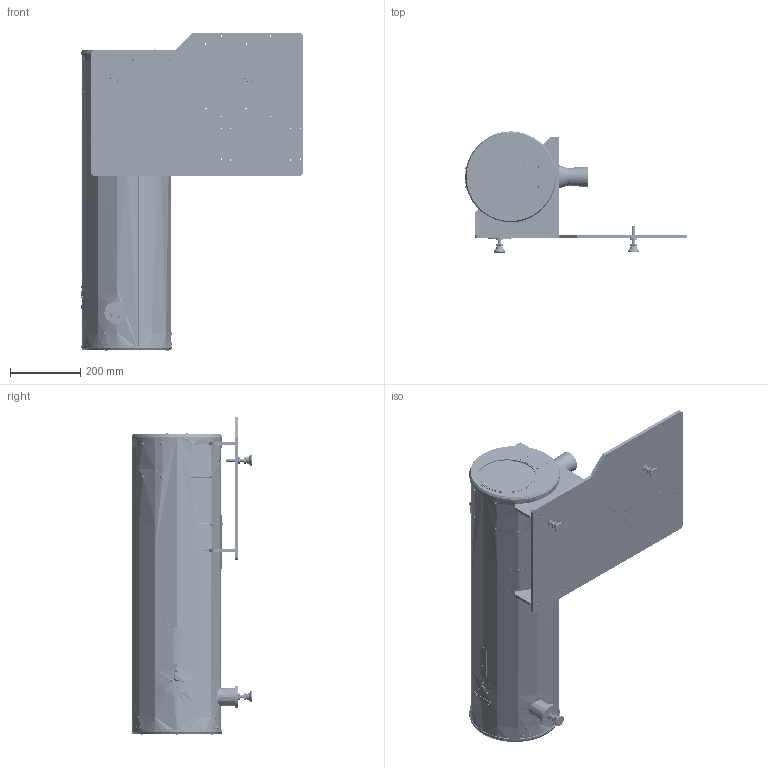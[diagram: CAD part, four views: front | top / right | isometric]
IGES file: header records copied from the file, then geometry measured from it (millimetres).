
Start section: SolidWorks IGES file using analytic representation for surfaces
Global section: file name: X:\ECO_SUB\052380\319-001-335\319-001-335_NC.IGS; native system: SolidWorks 2013; preprocessor: SolidWorks 2013; author: doug; date: 140929.131012; units: inch
Bounding box: 631.85 x 344.04 x 906.28 mm (x, y, z)
Surface area: 2731106.8 mm2 (no closed solid volume)
Topology: 0 solids, 0 shells, 3310 faces, 45181 edges, 45167 vertices
Faces by surface type: bspline 2352, revolution 958
